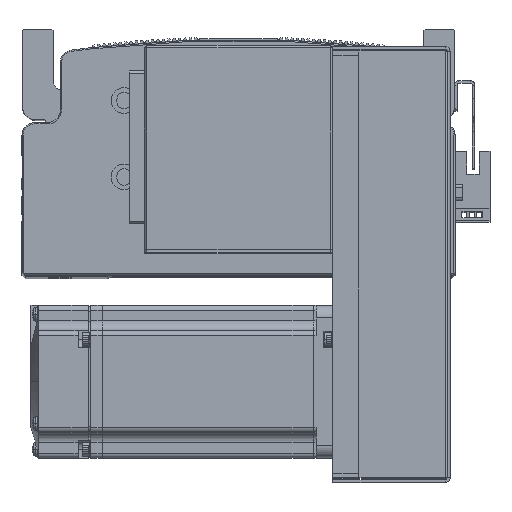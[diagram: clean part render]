
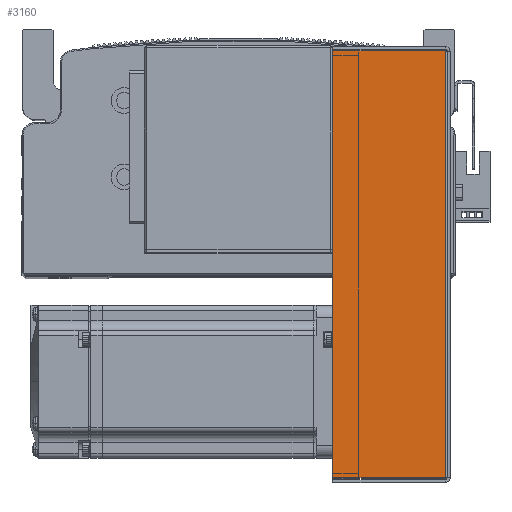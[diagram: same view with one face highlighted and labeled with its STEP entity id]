
A CAD part, top view. The second image highlights one B-rep face of the part: STEP entity #3160.
In plain terms, the highlighted planar face has unit normal (0, 0, 1) as drawn and (0, 0, -1) by its records, which use the part's own axes.
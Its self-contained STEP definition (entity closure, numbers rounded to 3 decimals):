
#541 = LINE ( 'NONE', #17242, #702 ) ;
#702 = VECTOR ( 'NONE', #17292, 1000. ) ;
#3160 = ADVANCED_FACE ( 'NONE', ( #17765 ), #4348, .F. ) ;
#4306 = DIRECTION ( 'NONE',  ( 0., 0., 1. ) ) ;
#4317 = CARTESIAN_POINT ( 'NONE',  ( 0., 0., -40.5 ) ) ;
#4330 = DIRECTION ( 'NONE',  ( 0., -1., 0. ) ) ;
#4348 = PLANE ( 'NONE',  #15233 ) ;
#5070 = VECTOR ( 'NONE', #15408, 1000. ) ;
#5106 = LINE ( 'NONE', #15484, #5164 ) ;
#5164 = VECTOR ( 'NONE', #15566, 1000. ) ;
#5176 = LINE ( 'NONE', #15440, #5070 ) ;
#7222 = VECTOR ( 'NONE', #17732, 1000. ) ;
#7250 = LINE ( 'NONE', #17726, #7222 ) ;
#15233 = AXIS2_PLACEMENT_3D ( 'NONE', #4317, #4306, #4330 ) ;
#15408 = DIRECTION ( 'NONE',  ( 0., 1., 0. ) ) ;
#15440 = CARTESIAN_POINT ( 'NONE',  ( -83.793, 0., -40.5 ) ) ;
#15484 = CARTESIAN_POINT ( 'NONE',  ( 0., 0.737, -40.5 ) ) ;
#15566 = DIRECTION ( 'NONE',  ( 1., 0., 0. ) ) ;
#17242 = CARTESIAN_POINT ( 'NONE',  ( 83.793, 0., -40.5 ) ) ;
#17292 = DIRECTION ( 'NONE',  ( 0., 1., 0. ) ) ;
#17726 = CARTESIAN_POINT ( 'NONE',  ( 84.5, 45., -40.5 ) ) ;
#17732 = DIRECTION ( 'NONE',  ( 1., 0., 0. ) ) ;
#17765 = FACE_OUTER_BOUND ( 'NONE', #23477, .T. ) ;
#23477 = EDGE_LOOP ( 'NONE', ( #26564, #26583, #26485, #26600 ) ) ;
#26485 = ORIENTED_EDGE ( 'NONE', *, *, #50980, .T. ) ;
#26564 = ORIENTED_EDGE ( 'NONE', *, *, #51048, .F. ) ;
#26583 = ORIENTED_EDGE ( 'NONE', *, *, #51027, .T. ) ;
#26600 = ORIENTED_EDGE ( 'NONE', *, *, #50977, .F. ) ;
#31388 = VERTEX_POINT ( 'NONE', #78024 ) ;
#31424 = VERTEX_POINT ( 'NONE', #55302 ) ;
#31426 = VERTEX_POINT ( 'NONE', #55208 ) ;
#50977 = EDGE_CURVE ( 'NONE', #31388, #31424, #541, .T. ) ;
#50980 = EDGE_CURVE ( 'NONE', #31426, #31424, #7250, .T. ) ;
#51027 = EDGE_CURVE ( 'NONE', #61921, #31426, #5176, .T. ) ;
#51048 = EDGE_CURVE ( 'NONE', #61921, #31388, #5106, .T. ) ;
#55208 = CARTESIAN_POINT ( 'NONE',  ( -83.793, 45., -40.5 ) ) ;
#55302 = CARTESIAN_POINT ( 'NONE',  ( 83.793, 45., -40.5 ) ) ;
#61921 = VERTEX_POINT ( 'NONE', #63752 ) ;
#63752 = CARTESIAN_POINT ( 'NONE',  ( -83.793, 0.737, -40.5 ) ) ;
#78024 = CARTESIAN_POINT ( 'NONE',  ( 83.793, 0.737, -40.5 ) ) ;
